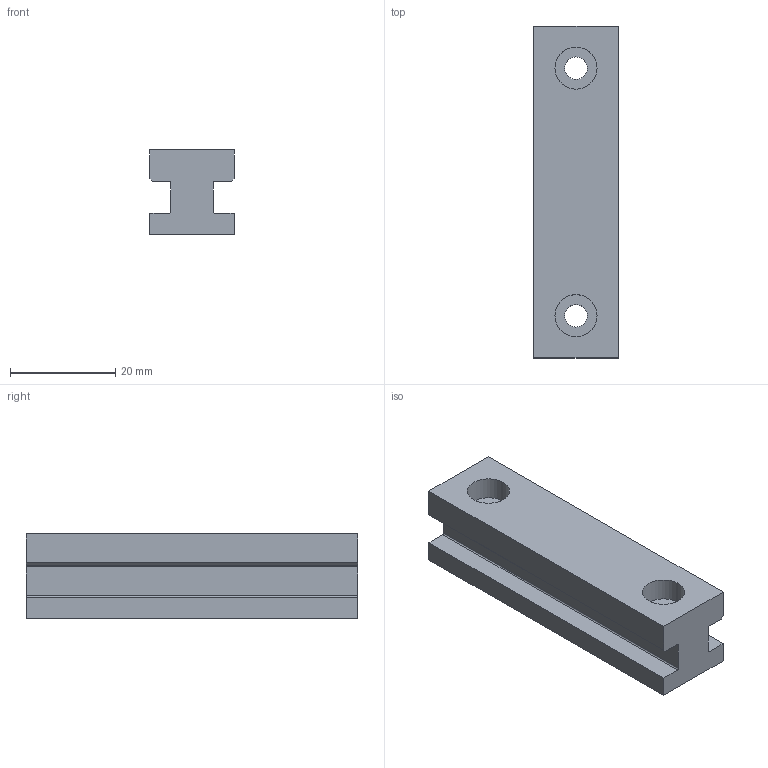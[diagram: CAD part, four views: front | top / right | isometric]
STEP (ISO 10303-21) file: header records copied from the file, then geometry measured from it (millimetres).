
FILE_DESCRIPTION (( 'STEP AP214' ), '1' );
FILE_NAME ('Schieberführung Mitte_-_16 x 16 L=63.step', '2024-01-10T12:53:22', ( '' ), ( '' ), 'SwSTEP 2.0', 'SolidWorks 2020', '' );
FILE_SCHEMA (( 'AUTOMOTIVE_DESIGN' ));
Length unit declared in the file: millimetre
Products named in the file (1): Schieberführung Mitte_-_16 x 16 L=63
Bounding box: 16 x 63 x 16 mm (x, y, z)
Volume: 12311.9 mm3; surface area: 5873.6 mm2
Topology: 1 solids, 1 shells, 147 faces, 390 edges, 260 vertices
Faces by surface type: plane 74, bspline 65, cylinder 8
Full cylindrical faces by diameter (mm): 4.3 x2, 8 x2
Entity records: 7752 total; most frequent: CARTESIAN_POINT 4499, ORIENTED_EDGE 772, DIRECTION 438, EDGE_CURVE 386, VERTEX_POINT 260, VECTOR 240, LINE 240, EDGE_LOOP 170
